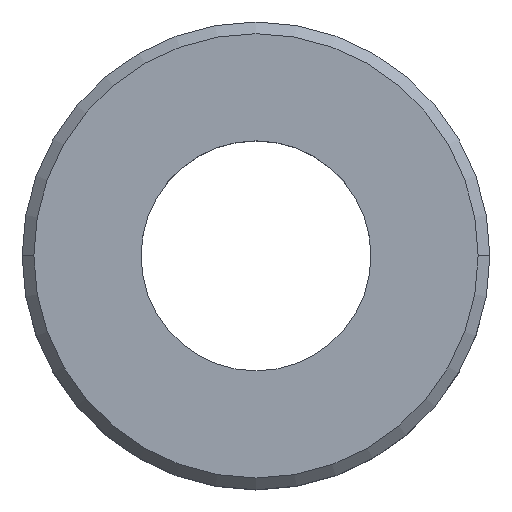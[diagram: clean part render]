
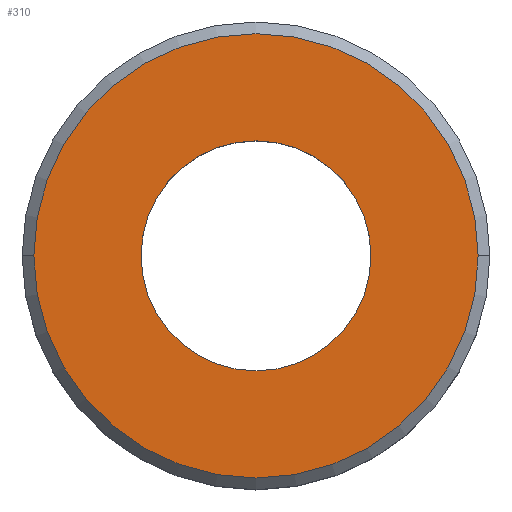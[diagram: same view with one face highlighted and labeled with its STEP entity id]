
A CAD part, top view. The second image highlights one B-rep face of the part: STEP entity #310.
In plain terms, the highlighted planar face has unit normal (0, 0, 1).
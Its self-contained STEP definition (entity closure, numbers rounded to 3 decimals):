
#78=CARTESIAN_POINT('Axis2P3D Location',(0.,0.,3.75)) ;
#82=CARTESIAN_POINT('Vertex',(2.459,0.,3.75)) ;
#84=CARTESIAN_POINT('Vertex',(-2.459,0.,3.75)) ;
#104=CARTESIAN_POINT('Axis2P3D Location',(0.,0.,3.75)) ;
#283=CARTESIAN_POINT('Axis2P3D Location',(0.,0.,3.75)) ;
#288=CARTESIAN_POINT('Axis2P3D Location',(0.,0.,3.75)) ;
#292=CARTESIAN_POINT('Vertex',(-4.75,0.,3.75)) ;
#294=CARTESIAN_POINT('Vertex',(4.75,0.,3.75)) ;
#297=CARTESIAN_POINT('Axis2P3D Location',(0.,0.,3.75)) ;
#79=DIRECTION('Axis2P3D Direction',(0.,-0.,1.)) ;
#105=DIRECTION('Axis2P3D Direction',(0.,-0.,1.)) ;
#284=DIRECTION('Axis2P3D Direction',(0.,0.,1.)) ;
#285=DIRECTION('Axis2P3D XDirection',(1.,0.,0.)) ;
#289=DIRECTION('Axis2P3D Direction',(0.,0.,1.)) ;
#298=DIRECTION('Axis2P3D Direction',(0.,0.,1.)) ;
#80=AXIS2_PLACEMENT_3D('Circle Axis2P3D',#78,#79,$) ;
#106=AXIS2_PLACEMENT_3D('Circle Axis2P3D',#104,#105,$) ;
#286=AXIS2_PLACEMENT_3D('Plane Axis2P3D',#283,#284,#285) ;
#290=AXIS2_PLACEMENT_3D('Circle Axis2P3D',#288,#289,$) ;
#299=AXIS2_PLACEMENT_3D('Circle Axis2P3D',#297,#298,$) ;
#81=CIRCLE('generated circle',#80,2.459) ;
#107=CIRCLE('generated circle',#106,2.459) ;
#291=CIRCLE('generated circle',#290,4.75) ;
#300=CIRCLE('generated circle',#299,4.75) ;
#287=PLANE('',#286) ;
#309=FACE_BOUND('',#306,.T.) ;
#86=EDGE_CURVE('',#83,#85,#81,.T.) ;
#108=EDGE_CURVE('',#85,#83,#107,.T.) ;
#296=EDGE_CURVE('',#293,#295,#291,.T.) ;
#301=EDGE_CURVE('',#295,#293,#300,.T.) ;
#302=EDGE_LOOP('',(#303,#304)) ;
#306=EDGE_LOOP('',(#307,#308)) ;
#303=ORIENTED_EDGE('',*,*,#296,.T.) ;
#304=ORIENTED_EDGE('',*,*,#301,.T.) ;
#307=ORIENTED_EDGE('',*,*,#86,.F.) ;
#308=ORIENTED_EDGE('',*,*,#108,.F.) ;
#83=VERTEX_POINT('',#82) ;
#85=VERTEX_POINT('',#84) ;
#293=VERTEX_POINT('',#292) ;
#295=VERTEX_POINT('',#294) ;
#310=ADVANCED_FACE('Corps principal',(#305,#309),#287,.T.) ;
#305=FACE_OUTER_BOUND('',#302,.T.) ;
